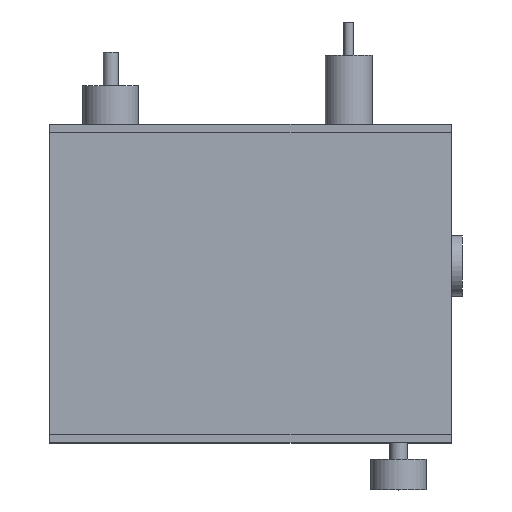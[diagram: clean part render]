
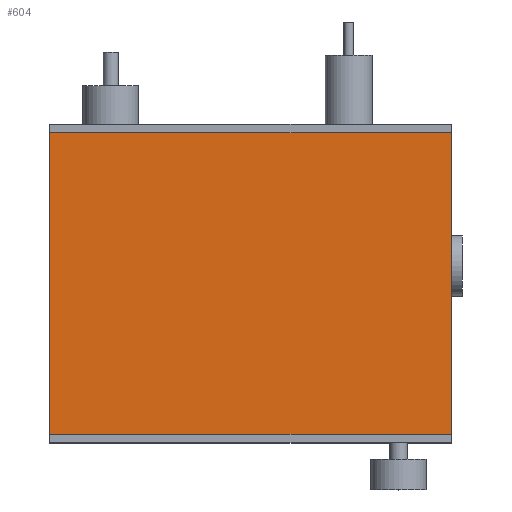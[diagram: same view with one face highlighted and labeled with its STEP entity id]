
A CAD part, top view. The second image highlights one B-rep face of the part: STEP entity #604.
In plain terms, the highlighted planar face has unit normal (0, 0, 1).
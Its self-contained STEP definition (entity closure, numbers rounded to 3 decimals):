
#97 = VERTEX_POINT('',#98);
#98 = CARTESIAN_POINT('',(0.,3.,100.));
#105 = PLANE('',#106);
#106 = AXIS2_PLACEMENT_3D('',#107,#108,#109);
#107 = CARTESIAN_POINT('',(0.,3.,0.));
#108 = DIRECTION('',(1.,0.,0.));
#109 = DIRECTION('',(0.,0.,1.));
#117 = PLANE('',#118);
#118 = AXIS2_PLACEMENT_3D('',#119,#120,#121);
#119 = CARTESIAN_POINT('',(0.,3.,0.));
#120 = DIRECTION('',(0.,1.,0.));
#121 = DIRECTION('',(0.,0.,1.));
#158 = VERTEX_POINT('',#159);
#159 = CARTESIAN_POINT('',(0.,112.,100.));
#173 = PLANE('',#174);
#174 = AXIS2_PLACEMENT_3D('',#175,#176,#177);
#175 = CARTESIAN_POINT('',(0.,112.,0.));
#176 = DIRECTION('',(0.,1.,0.));
#177 = DIRECTION('',(0.,0.,1.));
#185 = EDGE_CURVE('',#97,#158,#186,.T.);
#186 = SURFACE_CURVE('',#187,(#191,#198),.PCURVE_S1.);
#187 = LINE('',#188,#189);
#188 = CARTESIAN_POINT('',(0.,3.,100.));
#189 = VECTOR('',#190,1.);
#190 = DIRECTION('',(0.,1.,0.));
#191 = PCURVE('',#105,#192);
#192 = DEFINITIONAL_REPRESENTATION('',(#193),#197);
#193 = LINE('',#194,#195);
#194 = CARTESIAN_POINT('',(100.,0.));
#195 = VECTOR('',#196,1.);
#196 = DIRECTION('',(0.,-1.));
#197 = ( GEOMETRIC_REPRESENTATION_CONTEXT(2) 
PARAMETRIC_REPRESENTATION_CONTEXT() REPRESENTATION_CONTEXT('2D SPACE',''
  ) );
#198 = PCURVE('',#199,#204);
#199 = PLANE('',#200);
#200 = AXIS2_PLACEMENT_3D('',#201,#202,#203);
#201 = CARTESIAN_POINT('',(0.,3.,100.));
#202 = DIRECTION('',(0.,0.,1.));
#203 = DIRECTION('',(1.,0.,0.));
#204 = DEFINITIONAL_REPRESENTATION('',(#205),#209);
#205 = LINE('',#206,#207);
#206 = CARTESIAN_POINT('',(0.,0.));
#207 = VECTOR('',#208,1.);
#208 = DIRECTION('',(0.,1.));
#209 = ( GEOMETRIC_REPRESENTATION_CONTEXT(2) 
PARAMETRIC_REPRESENTATION_CONTEXT() REPRESENTATION_CONTEXT('2D SPACE',''
  ) );
#450 = EDGE_CURVE('',#97,#451,#453,.T.);
#451 = VERTEX_POINT('',#452);
#452 = CARTESIAN_POINT('',(145.,3.,100.));
#453 = SURFACE_CURVE('',#454,(#458,#465),.PCURVE_S1.);
#454 = LINE('',#455,#456);
#455 = CARTESIAN_POINT('',(0.,3.,100.));
#456 = VECTOR('',#457,1.);
#457 = DIRECTION('',(1.,0.,0.));
#458 = PCURVE('',#117,#459);
#459 = DEFINITIONAL_REPRESENTATION('',(#460),#464);
#460 = LINE('',#461,#462);
#461 = CARTESIAN_POINT('',(100.,0.));
#462 = VECTOR('',#463,1.);
#463 = DIRECTION('',(0.,1.));
#464 = ( GEOMETRIC_REPRESENTATION_CONTEXT(2) 
PARAMETRIC_REPRESENTATION_CONTEXT() REPRESENTATION_CONTEXT('2D SPACE',''
  ) );
#465 = PCURVE('',#199,#466);
#466 = DEFINITIONAL_REPRESENTATION('',(#467),#471);
#467 = LINE('',#468,#469);
#468 = CARTESIAN_POINT('',(0.,0.));
#469 = VECTOR('',#470,1.);
#470 = DIRECTION('',(1.,0.));
#471 = ( GEOMETRIC_REPRESENTATION_CONTEXT(2) 
PARAMETRIC_REPRESENTATION_CONTEXT() REPRESENTATION_CONTEXT('2D SPACE',''
  ) );
#487 = PLANE('',#488);
#488 = AXIS2_PLACEMENT_3D('',#489,#490,#491);
#489 = CARTESIAN_POINT('',(145.,3.,0.));
#490 = DIRECTION('',(1.,0.,0.));
#491 = DIRECTION('',(0.,0.,1.));
#604 = ADVANCED_FACE('',(#605),#199,.T.);
#605 = FACE_BOUND('',#606,.T.);
#606 = EDGE_LOOP('',(#607,#608,#609,#632));
#607 = ORIENTED_EDGE('',*,*,#185,.F.);
#608 = ORIENTED_EDGE('',*,*,#450,.T.);
#609 = ORIENTED_EDGE('',*,*,#610,.T.);
#610 = EDGE_CURVE('',#451,#611,#613,.T.);
#611 = VERTEX_POINT('',#612);
#612 = CARTESIAN_POINT('',(145.,112.,100.));
#613 = SURFACE_CURVE('',#614,(#618,#625),.PCURVE_S1.);
#614 = LINE('',#615,#616);
#615 = CARTESIAN_POINT('',(145.,3.,100.));
#616 = VECTOR('',#617,1.);
#617 = DIRECTION('',(0.,1.,0.));
#618 = PCURVE('',#199,#619);
#619 = DEFINITIONAL_REPRESENTATION('',(#620),#624);
#620 = LINE('',#621,#622);
#621 = CARTESIAN_POINT('',(145.,0.));
#622 = VECTOR('',#623,1.);
#623 = DIRECTION('',(0.,1.));
#624 = ( GEOMETRIC_REPRESENTATION_CONTEXT(2) 
PARAMETRIC_REPRESENTATION_CONTEXT() REPRESENTATION_CONTEXT('2D SPACE',''
  ) );
#625 = PCURVE('',#487,#626);
#626 = DEFINITIONAL_REPRESENTATION('',(#627),#631);
#627 = LINE('',#628,#629);
#628 = CARTESIAN_POINT('',(100.,0.));
#629 = VECTOR('',#630,1.);
#630 = DIRECTION('',(0.,-1.));
#631 = ( GEOMETRIC_REPRESENTATION_CONTEXT(2) 
PARAMETRIC_REPRESENTATION_CONTEXT() REPRESENTATION_CONTEXT('2D SPACE',''
  ) );
#632 = ORIENTED_EDGE('',*,*,#633,.F.);
#633 = EDGE_CURVE('',#158,#611,#634,.T.);
#634 = SURFACE_CURVE('',#635,(#639,#646),.PCURVE_S1.);
#635 = LINE('',#636,#637);
#636 = CARTESIAN_POINT('',(0.,112.,100.));
#637 = VECTOR('',#638,1.);
#638 = DIRECTION('',(1.,0.,0.));
#639 = PCURVE('',#199,#640);
#640 = DEFINITIONAL_REPRESENTATION('',(#641),#645);
#641 = LINE('',#642,#643);
#642 = CARTESIAN_POINT('',(0.,109.));
#643 = VECTOR('',#644,1.);
#644 = DIRECTION('',(1.,0.));
#645 = ( GEOMETRIC_REPRESENTATION_CONTEXT(2) 
PARAMETRIC_REPRESENTATION_CONTEXT() REPRESENTATION_CONTEXT('2D SPACE',''
  ) );
#646 = PCURVE('',#173,#647);
#647 = DEFINITIONAL_REPRESENTATION('',(#648),#652);
#648 = LINE('',#649,#650);
#649 = CARTESIAN_POINT('',(100.,0.));
#650 = VECTOR('',#651,1.);
#651 = DIRECTION('',(0.,1.));
#652 = ( GEOMETRIC_REPRESENTATION_CONTEXT(2) 
PARAMETRIC_REPRESENTATION_CONTEXT() REPRESENTATION_CONTEXT('2D SPACE',''
  ) );
